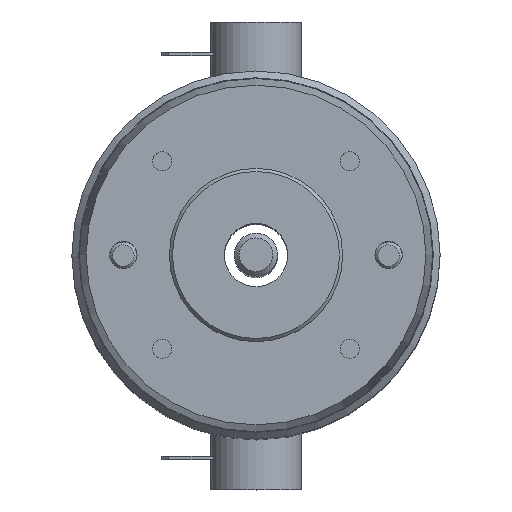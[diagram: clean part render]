
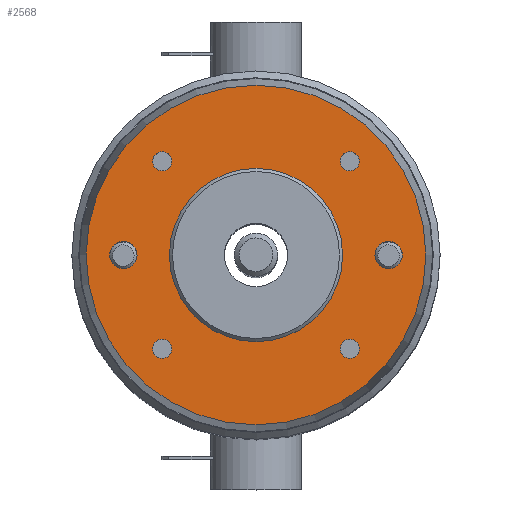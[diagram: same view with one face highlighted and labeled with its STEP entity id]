
A CAD part, top view. The second image highlights one B-rep face of the part: STEP entity #2568.
In plain terms, the highlighted planar face has unit normal (0, 0, 1).
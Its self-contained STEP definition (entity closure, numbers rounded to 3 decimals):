
#105=FACE_BOUND('',#956,.T.);
#106=FACE_BOUND('',#957,.T.);
#107=FACE_BOUND('',#958,.T.);
#108=FACE_BOUND('',#959,.T.);
#109=FACE_BOUND('',#960,.T.);
#110=FACE_BOUND('',#961,.T.);
#111=FACE_BOUND('',#962,.T.);
#287=PLANE('',#3090);
#781=FACE_OUTER_BOUND('',#955,.T.);
#955=EDGE_LOOP('',(#2209));
#956=EDGE_LOOP('',(#2210,#2211));
#957=EDGE_LOOP('',(#2212,#2213));
#958=EDGE_LOOP('',(#2214,#2215));
#959=EDGE_LOOP('',(#2216,#2217));
#960=EDGE_LOOP('',(#2218));
#961=EDGE_LOOP('',(#2219));
#962=EDGE_LOOP('',(#2220));
#1096=CIRCLE('',#3064,1.4);
#1097=CIRCLE('',#3065,1.4);
#1099=CIRCLE('',#3068,1.4);
#1100=CIRCLE('',#3069,1.4);
#1102=CIRCLE('',#3072,1.4);
#1103=CIRCLE('',#3073,1.4);
#1105=CIRCLE('',#3076,1.4);
#1106=CIRCLE('',#3077,1.4);
#1107=CIRCLE('',#3079,2.);
#1109=CIRCLE('',#3082,2.);
#1113=CIRCLE('',#3089,12.7);
#1114=CIRCLE('',#3091,24.9);
#1293=VERTEX_POINT('',#4658);
#1294=VERTEX_POINT('',#4660);
#1296=VERTEX_POINT('',#4666);
#1297=VERTEX_POINT('',#4668);
#1299=VERTEX_POINT('',#4674);
#1300=VERTEX_POINT('',#4676);
#1302=VERTEX_POINT('',#4682);
#1303=VERTEX_POINT('',#4684);
#1304=VERTEX_POINT('',#4688);
#1306=VERTEX_POINT('',#4694);
#1310=VERTEX_POINT('',#4708);
#1311=VERTEX_POINT('',#4712);
#1603=EDGE_CURVE('',#1294,#1293,#1096,.T.);
#1604=EDGE_CURVE('',#1293,#1294,#1097,.T.);
#1607=EDGE_CURVE('',#1297,#1296,#1099,.T.);
#1608=EDGE_CURVE('',#1296,#1297,#1100,.T.);
#1611=EDGE_CURVE('',#1300,#1299,#1102,.T.);
#1612=EDGE_CURVE('',#1299,#1300,#1103,.T.);
#1615=EDGE_CURVE('',#1303,#1302,#1105,.T.);
#1616=EDGE_CURVE('',#1302,#1303,#1106,.T.);
#1617=EDGE_CURVE('',#1304,#1304,#1107,.T.);
#1620=EDGE_CURVE('',#1306,#1306,#1109,.T.);
#1628=EDGE_CURVE('',#1310,#1310,#1113,.T.);
#1629=EDGE_CURVE('',#1311,#1311,#1114,.T.);
#2209=ORIENTED_EDGE('',*,*,#1629,.F.);
#2210=ORIENTED_EDGE('',*,*,#1603,.T.);
#2211=ORIENTED_EDGE('',*,*,#1604,.T.);
#2212=ORIENTED_EDGE('',*,*,#1607,.T.);
#2213=ORIENTED_EDGE('',*,*,#1608,.T.);
#2214=ORIENTED_EDGE('',*,*,#1611,.T.);
#2215=ORIENTED_EDGE('',*,*,#1612,.T.);
#2216=ORIENTED_EDGE('',*,*,#1615,.T.);
#2217=ORIENTED_EDGE('',*,*,#1616,.T.);
#2218=ORIENTED_EDGE('',*,*,#1617,.T.);
#2219=ORIENTED_EDGE('',*,*,#1620,.T.);
#2220=ORIENTED_EDGE('',*,*,#1628,.T.);
#2568=ADVANCED_FACE('',(#781,#105,#106,#107,#108,#109,#110,#111),#287,.F.);
#3064=AXIS2_PLACEMENT_3D('',#4661,#3692,#3693);
#3065=AXIS2_PLACEMENT_3D('',#4662,#3694,#3695);
#3068=AXIS2_PLACEMENT_3D('',#4669,#3701,#3702);
#3069=AXIS2_PLACEMENT_3D('',#4670,#3703,#3704);
#3072=AXIS2_PLACEMENT_3D('',#4677,#3710,#3711);
#3073=AXIS2_PLACEMENT_3D('',#4678,#3712,#3713);
#3076=AXIS2_PLACEMENT_3D('',#4685,#3719,#3720);
#3077=AXIS2_PLACEMENT_3D('',#4686,#3721,#3722);
#3079=AXIS2_PLACEMENT_3D('',#4689,#3725,#3726);
#3082=AXIS2_PLACEMENT_3D('',#4695,#3732,#3733);
#3089=AXIS2_PLACEMENT_3D('',#4710,#3750,#3751);
#3090=AXIS2_PLACEMENT_3D('',#4711,#3752,#3753);
#3091=AXIS2_PLACEMENT_3D('',#4713,#3754,#3755);
#3692=DIRECTION('center_axis',(0.,0.,-1.));
#3693=DIRECTION('ref_axis',(0.,1.,0.));
#3694=DIRECTION('center_axis',(0.,0.,-1.));
#3695=DIRECTION('ref_axis',(0.,1.,0.));
#3701=DIRECTION('center_axis',(0.,0.,-1.));
#3702=DIRECTION('ref_axis',(-1.,0.,0.));
#3703=DIRECTION('center_axis',(0.,0.,-1.));
#3704=DIRECTION('ref_axis',(-1.,0.,0.));
#3710=DIRECTION('center_axis',(0.,0.,-1.));
#3711=DIRECTION('ref_axis',(0.,-1.,0.));
#3712=DIRECTION('center_axis',(0.,0.,-1.));
#3713=DIRECTION('ref_axis',(0.,-1.,0.));
#3719=DIRECTION('center_axis',(0.,0.,-1.));
#3720=DIRECTION('ref_axis',(1.,0.,0.));
#3721=DIRECTION('center_axis',(0.,0.,-1.));
#3722=DIRECTION('ref_axis',(1.,0.,0.));
#3725=DIRECTION('center_axis',(0.,0.,-1.));
#3726=DIRECTION('ref_axis',(-1.,0.,0.));
#3732=DIRECTION('center_axis',(0.,0.,-1.));
#3733=DIRECTION('ref_axis',(-1.,0.,0.));
#3750=DIRECTION('center_axis',(0.,0.,-1.));
#3751=DIRECTION('ref_axis',(-1.,0.,0.));
#3752=DIRECTION('center_axis',(0.,0.,-1.));
#3753=DIRECTION('ref_axis',(-1.,0.,0.));
#3754=DIRECTION('center_axis',(0.,0.,-1.));
#3755=DIRECTION('ref_axis',(-1.,0.,0.));
#4658=CARTESIAN_POINT('',(-13.75,12.35,5.));
#4660=CARTESIAN_POINT('',(-13.75,15.15,5.));
#4661=CARTESIAN_POINT('Origin',(-13.75,13.75,5.));
#4662=CARTESIAN_POINT('Origin',(-13.75,13.75,5.));
#4666=CARTESIAN_POINT('',(-12.35,-13.75,5.));
#4668=CARTESIAN_POINT('',(-15.15,-13.75,5.));
#4669=CARTESIAN_POINT('Origin',(-13.75,-13.75,5.));
#4670=CARTESIAN_POINT('Origin',(-13.75,-13.75,5.));
#4674=CARTESIAN_POINT('',(13.75,-12.35,5.));
#4676=CARTESIAN_POINT('',(13.75,-15.15,5.));
#4677=CARTESIAN_POINT('Origin',(13.75,-13.75,5.));
#4678=CARTESIAN_POINT('Origin',(13.75,-13.75,5.));
#4682=CARTESIAN_POINT('',(12.35,13.75,5.));
#4684=CARTESIAN_POINT('',(15.15,13.75,5.));
#4685=CARTESIAN_POINT('Origin',(13.75,13.75,5.));
#4686=CARTESIAN_POINT('Origin',(13.75,13.75,5.));
#4688=CARTESIAN_POINT('',(21.445,0.,5.));
#4689=CARTESIAN_POINT('Origin',(19.445,0.,5.));
#4694=CARTESIAN_POINT('',(-17.445,0.,5.));
#4695=CARTESIAN_POINT('Origin',(-19.445,0.,5.));
#4708=CARTESIAN_POINT('',(12.7,0.,5.));
#4710=CARTESIAN_POINT('Origin',(0.,0.,5.));
#4711=CARTESIAN_POINT('Origin',(0.,0.,5.));
#4712=CARTESIAN_POINT('',(-24.9,0.,5.));
#4713=CARTESIAN_POINT('Origin',(0.,0.,5.));
